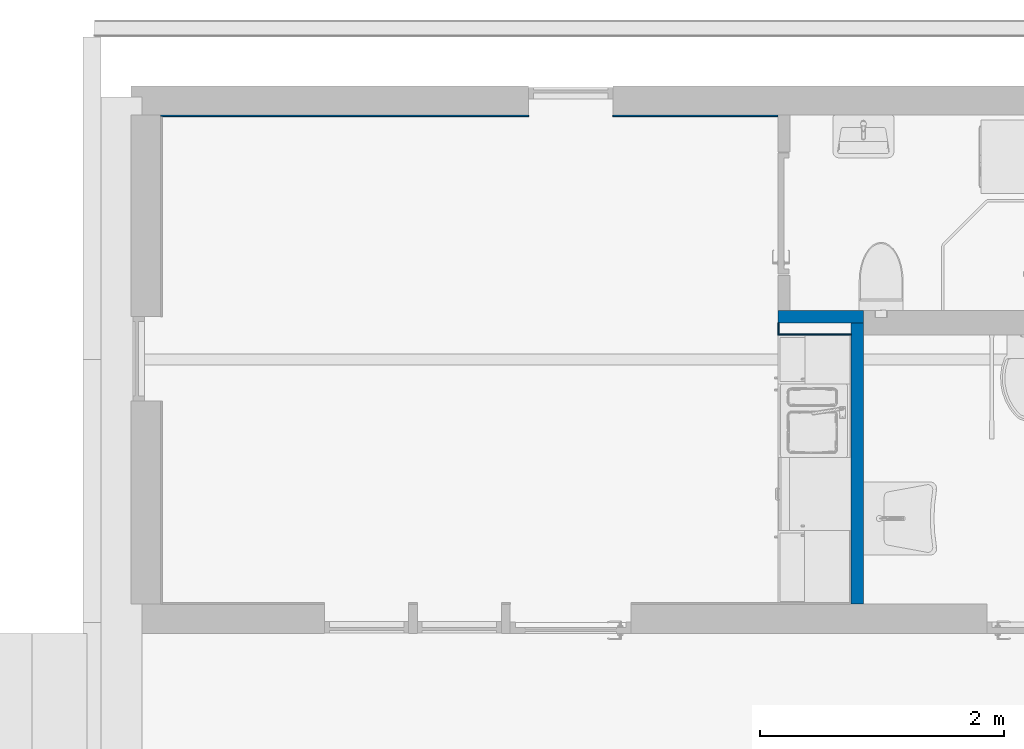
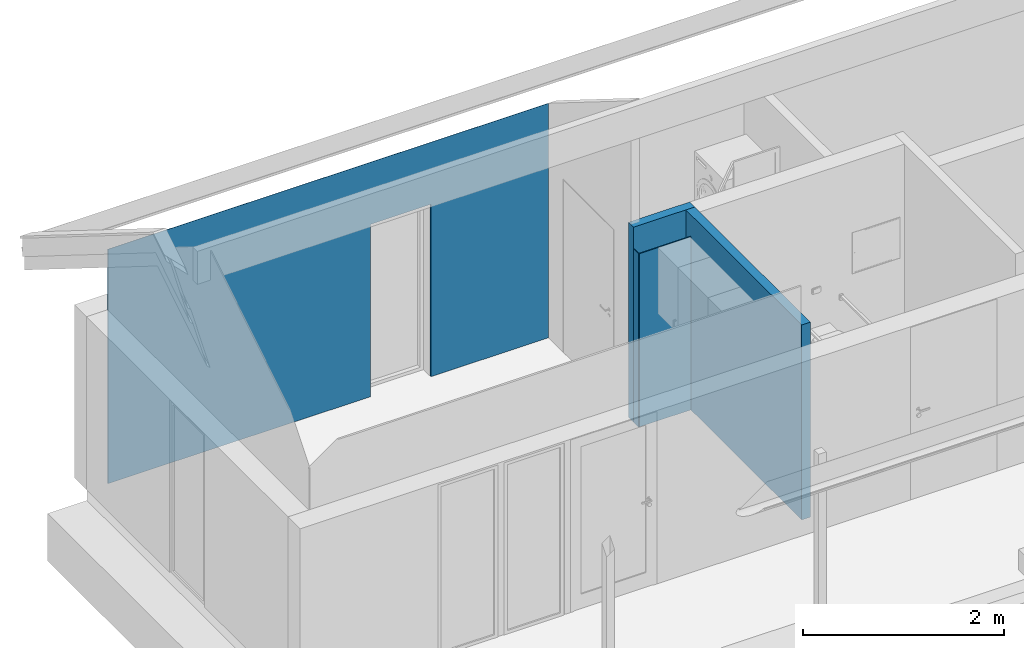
# One storey, part 4 of 15: 5 walls, 1 opening.
"""IFC2X3 building model written with IfcOpenShell, lengths in millimetres."""

from ifc_helpers import new_model, entity, si_unit, converted_unit, direction, frame, frame_2d, origin, place, context, subcontext, project, spatial, polyline, rectangle, extrude, clip, bounded_halfspace, material, layer, layer_set, layer_usage, type_object, element, save


model = new_model("IFC2X3")

# Units and contexts
model_context = context("Model", 3, precision=0.01, world=origin(), true_north=direction((0.0, 1.0)))
body_context = subcontext(model_context, "Body", "Model", "MODEL_VIEW")
ifc_project = project(units=[si_unit("LENGTHUNIT", "METRE", prefix="MILLI"), si_unit("AREAUNIT", "SQUARE_METRE"), si_unit("VOLUMEUNIT", "CUBIC_METRE"), converted_unit("PLANEANGLEUNIT", "DEGREE", entity("IfcPlaneAngleMeasure", 0.017453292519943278), si_unit("PLANEANGLEUNIT", "RADIAN"), dimensions=[0, 0, 0, 0, 0, 0, 0])], contexts=[model_context])

# Site, building, storey
site_placement = place(None, origin())
site = spatial("IfcSite", under=ifc_project, at=site_placement, Name="Default", CompositionType="ELEMENT")
building_placement = place(site_placement, origin())
building = spatial("IfcBuilding", under=site, at=building_placement, CompositionType="ELEMENT")
storey_placement = place(building_placement, origin())
storey = spatial("IfcBuildingStorey", under=building, at=storey_placement, Name="Et. 1", CompositionType="ELEMENT", Elevation=0.0)

# Walls
ifc_material_1 = material(Name="Vegg - Stender - Isolert")
ifc_layer_1 = layer(ifc_material_1, 100.0)
ifc_layer_set_1 = layer_set([ifc_layer_1], Name="Basic Wall:Innervegg isolert")
ifc_layer_usage_1 = layer_usage(ifc_layer_set_1, "AXIS2", "NEGATIVE", 50.0)
wall_type_1 = type_object("IfcWallType", Name="Basic Wall:Innervegg isolert", PredefinedType="STANDARD", material=ifc_layer_set_1)
wall_1_placement = place(storey_placement, frame((17250.567419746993, 11853.190261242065, 0.0), z_axis=(0.0, 0.0, 1.0), x_axis=(0.0, 1.0, 0.0)))
element("IfcWallStandardCase", 1, at=wall_1_placement, inside=storey, type_object=wall_type_1, material=ifc_layer_usage_1, Name="Basic Wall:Innervegg isolert", context=body_context, shape_type="Clipping", body=[
    clip(extrude(rectangle(XDim=2300.000000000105, YDim=99.99999999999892, at=frame_2d((1150.0000000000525, -4.263256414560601e-13), x_axis=(-1.0, 0.0))), origin(), (0.0, 0.0, 1.0), 2364.0), bounded_halfspace(frame((0.0, -50.0, 2364.0), z_axis=(0.0, 0.0, -1.0), x_axis=(-1.0, 0.0, 0.0)), True, frame((0.0, -50.0, 2364.0)), polyline([(0.0, 0.0), (2200.0, 0.0), (2300.0, 0.0), (2300.0, 100.0), (0.0, 100.0), (0.0, 0.0)]))),
])
ifc_layer_usage_2 = layer_usage(ifc_layer_set_1, "AXIS2", "POSITIVE", -50.0)
wall_2_placement = place(storey_placement, frame((17300.567419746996, 14203.190261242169, 0.0), z_axis=(0.0, 0.0, 1.0), x_axis=(-1.0, 0.0, 0.0)))
element("IfcWallStandardCase", 2, at=wall_2_placement, inside=storey, type_object=wall_type_1, material=ifc_layer_usage_2, Name="Basic Wall:Innervegg isolert", context=body_context, shape_type="Clipping", body=[
    clip(extrude(rectangle(XDim=700.000000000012, YDim=99.99999999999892, at=frame_2d((350.000000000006, 1.8118839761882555e-13), x_axis=(-1.0, 0.0))), origin(), (0.0, 0.0, 1.0), 2364.0), bounded_halfspace(frame((0.0, -50.0, 2364.0), z_axis=(0.0, 0.0, -1.0), x_axis=(0.0, 1.0, 0.0)), True, frame((0.0, -50.0, 2364.0)), polyline([(0.0, 0.0), (600.0, 0.0), (600.0, 100.0), (100.0, 100.0), (0.0, 100.0), (0.0, 0.0)]))),
])

# Wall, opening
ifc_material_2 = material(Name="Tre - Kirsebær")
ifc_layer_2 = layer(ifc_material_2, 12.0)
ifc_layer_set_2 = layer_set([ifc_layer_2], Name="Basic Wall:Finer")
ifc_layer_usage_3 = layer_usage(ifc_layer_set_2, "AXIS2", "POSITIVE", -5.999999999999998)
wall_type_2 = type_object("IfcWallType", Name="Basic Wall:Finer", PredefinedType="STANDARD", material=ifc_layer_set_2)
wall_3_placement = place(storey_placement, frame((11550.567419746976, 15847.190261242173, 0.0)))
wall_3 = element("IfcWallStandardCase", 3, at=wall_3_placement, inside=storey, type_object=wall_type_2, material=ifc_layer_usage_3, Name="Basic Wall:Finer", context=body_context, shape_type="Clipping", body=[
    clip(extrude(rectangle(XDim=5050.000000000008, YDim=11.999999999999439, at=frame_2d((2525.000000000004, 1.1550760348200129e-12), x_axis=(1.0, 0.0))), origin(), (0.0, 0.0, 1.0), 2842.46707668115), bounded_halfspace(frame((0.0, -6.0, 2842.46707668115), z_axis=(0.0, 0.5299192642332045, 0.8480480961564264), x_axis=(-1.0, 0.0, 0.0)), False, frame((0.0, -6.0, 2842.46707668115)), polyline([(0.0, 0.0), (12.0, 0.0), (5050.0, 0.0), (5050.0, 12.0), (0.0, 12.0), (0.0, 0.0)]))),
])
opening_placement = place(wall_3_placement, origin())
element("IfcOpeningElement", 4, at=opening_placement, cuts=wall_3, Name="Basic Wall:Finer", ObjectType="Opening", context=body_context, shape_type="SweptSolid", body=[
    extrude(rectangle(XDim=2090.000000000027, YDim=690.0000000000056, at=frame_2d((0.0, -1.0800249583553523e-12), x_axis=(1.0, 0.0))), frame((3355.0, -1518.0, 1045.0), z_axis=(0.0, 1.0, 0.0), x_axis=(0.0, 0.0, -1.0)), (0.0, 0.0, 1.0), 3048.0),
])

# Walls
ifc_layer_3 = layer(ifc_material_2, 10.0)
ifc_layer_set_3 = layer_set([ifc_layer_3], Name="Basic Wall:Foring")
ifc_layer_usage_4 = layer_usage(ifc_layer_set_3, "AXIS2", "NEGATIVE", 4.999999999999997)
wall_type_3 = type_object("IfcWallType", Name="Basic Wall:Foring", PredefinedType="STANDARD", material=ifc_layer_set_3)
wall_4_placement = place(storey_placement, frame((16605.567419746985, 14153.190261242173, 0.0), z_axis=(0.0, 0.0, 1.0), x_axis=(0.0, -1.0, 0.0)))
element("IfcWallStandardCase", 5, at=wall_4_placement, inside=storey, type_object=wall_type_3, material=ifc_layer_usage_4, Name="Basic Wall:Foring", context=body_context, shape_type="SweptSolid", body=[
    extrude(rectangle(XDim=99.99999999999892, YDim=10.000000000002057, at=frame_2d((49.99999999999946, -1.8207657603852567e-14), x_axis=(-1.0, 0.0))), origin(), (0.0, 0.0, 1.0), 2100.000000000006),
])
ifc_layer_usage_5 = layer_usage(ifc_layer_set_3, "AXIS2", "NEGATIVE", 4.999999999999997)
wall_5_placement = place(storey_placement, frame((16610.56741974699, 14058.190261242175, 0.0)))
element("IfcWallStandardCase", 6, at=wall_5_placement, inside=storey, type_object=wall_type_3, material=ifc_layer_usage_5, Name="Basic Wall:Foring", context=body_context, shape_type="SweptSolid", body=[
    extrude(rectangle(XDim=590.0000000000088, YDim=10.000000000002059, at=frame_2d((295.0000000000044, 0.0), x_axis=(-1.0, 0.0))), origin(), (0.0, 0.0, 1.0), 2100.0000000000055),
])

save(model, "model.ifc")
